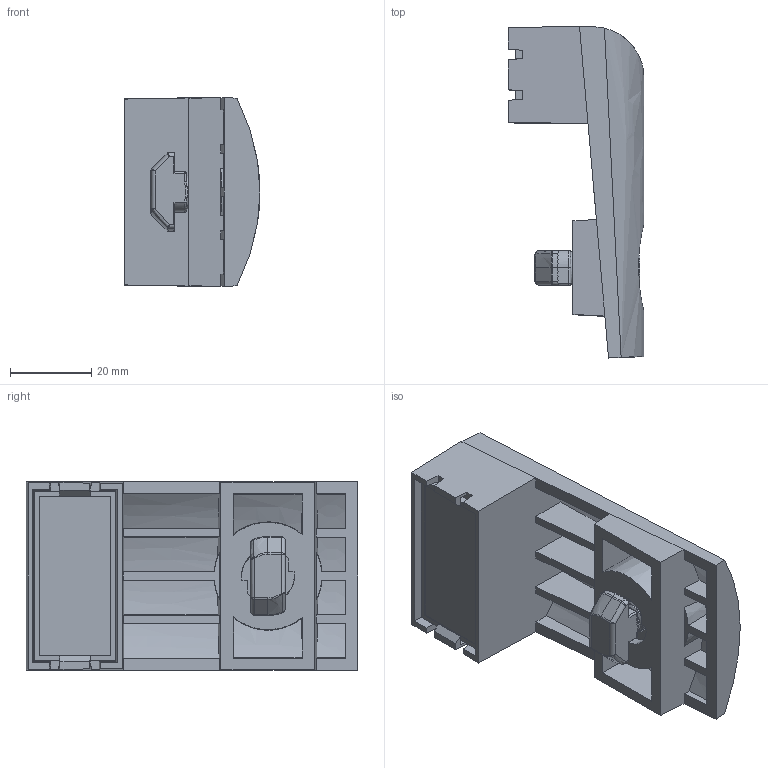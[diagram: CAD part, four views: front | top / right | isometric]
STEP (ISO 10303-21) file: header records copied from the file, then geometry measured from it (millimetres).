
FILE_DESCRIPTION (( 'STEP AP214' ), '1' );
FILE_NAME ('067RCB1SEU003.STEP', '2024-09-23T11:29:09', ( '' ), ( '' ), 'SwSTEP 2.0', 'SolidWorks 2023', '' );
FILE_SCHEMA (( 'AUTOMOTIVE_DESIGN' ));
Length unit declared in the file: millimetre
Products named in the file (8): 067RCB1SES005; 067RCB1SEU003(1); 4DIN934M08MS01; 096HK1030M0820; 067RCB1SEU003(2); 067RCB1SEU003; 4DIN125AM8M; 067RCB1SES006
Assembly tree (7 placements, depth 4):
  067RCB1SEU003
    067RCB1SEU003(2)
      067RCB1SEU003(1)
        067RCB1SES006
        067RCB1SES005
        4DIN125AM8M
        096HK1030M0820
        4DIN934M08MS01
Bounding box: 33.5 x 81.75 x 46.5 mm (x, y, z)
Volume: 34406.8 mm3; surface area: 24760.1 mm2
Topology: 5 solids, 5 shells, 307 faces, 797 edges, 497 vertices
Faces by surface type: plane 162, cylinder 60, bspline 51, cone 34
Entity records: 15241 total; most frequent: CARTESIAN_POINT 8163, ORIENTED_EDGE 1574, DIRECTION 1142, EDGE_CURVE 787, VERTEX_POINT 497, VECTOR 414, LINE 414, AXIS2_PLACEMENT_3D 364
